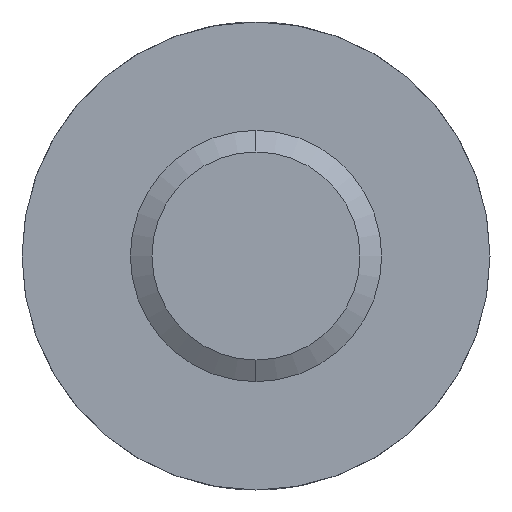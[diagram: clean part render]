
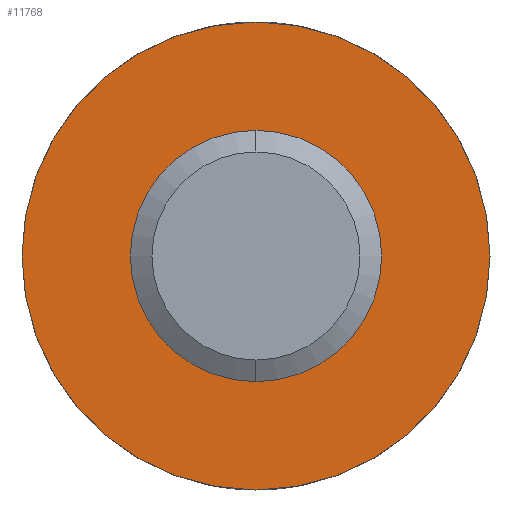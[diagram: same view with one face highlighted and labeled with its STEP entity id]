
A CAD part, left-side view. The second image highlights one B-rep face of the part: STEP entity #11768.
In plain terms, the highlighted planar face has unit normal (-1, 0, 0).
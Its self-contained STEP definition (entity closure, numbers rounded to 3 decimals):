
#27 = ORIENTED_EDGE ( 'NONE', *, *, #5656, .T. ) ;
#377 = EDGE_CURVE ( 'NONE', #10438, #880, #5296, .T. ) ;
#666 = CIRCLE ( 'NONE', #10435, 2.7 ) ;
#797 = CIRCLE ( 'NONE', #9126, 1.2 ) ;
#880 = VERTEX_POINT ( 'NONE', #11335 ) ;
#1375 = DIRECTION ( 'NONE',  ( 1., 0., 0. ) ) ;
#1838 = DIRECTION ( 'NONE',  ( -1., 0., 0. ) ) ;
#2215 = VERTEX_POINT ( 'NONE', #6433 ) ;
#2779 = CARTESIAN_POINT ( 'NONE',  ( 34.9, 0., -2.7 ) ) ;
#2895 = DIRECTION ( 'NONE',  ( 0., 0., 1. ) ) ;
#2939 = DIRECTION ( 'NONE',  ( -1., 0., 0. ) ) ;
#2984 = CARTESIAN_POINT ( 'NONE',  ( 34.9, 0., 0. ) ) ;
#3183 = PLANE ( 'NONE',  #6490 ) ;
#3697 = VERTEX_POINT ( 'NONE', #2779 ) ;
#4203 = ORIENTED_EDGE ( 'NONE', *, *, #7777, .T. ) ;
#4219 = CARTESIAN_POINT ( 'NONE',  ( 34.9, 0., 1.2 ) ) ;
#4252 = CARTESIAN_POINT ( 'NONE',  ( 34.9, 0., 0. ) ) ;
#4614 = EDGE_LOOP ( 'NONE', ( #4203, #27 ) ) ;
#5296 = CIRCLE ( 'NONE', #5841, 1.2 ) ;
#5320 = DIRECTION ( 'NONE',  ( -1., 0., 0. ) ) ;
#5656 = EDGE_CURVE ( 'NONE', #3697, #2215, #666, .T. ) ;
#5841 = AXIS2_PLACEMENT_3D ( 'NONE', #2984, #2939, #2895 ) ;
#6348 = EDGE_CURVE ( 'NONE', #880, #10438, #797, .T. ) ;
#6433 = CARTESIAN_POINT ( 'NONE',  ( 34.9, 0., 2.7 ) ) ;
#6490 = AXIS2_PLACEMENT_3D ( 'NONE', #11502, #1375, #7837 ) ;
#6556 = DIRECTION ( 'NONE',  ( 0., 0., 1. ) ) ;
#7390 = CARTESIAN_POINT ( 'NONE',  ( 34.9, 0., 0. ) ) ;
#7726 = EDGE_LOOP ( 'NONE', ( #10208, #11205 ) ) ;
#7761 = AXIS2_PLACEMENT_3D ( 'NONE', #4252, #9351, #6556 ) ;
#7777 = EDGE_CURVE ( 'NONE', #2215, #3697, #8835, .T. ) ;
#7837 = DIRECTION ( 'NONE',  ( 0., 0., -1. ) ) ;
#8288 = DIRECTION ( 'NONE',  ( 0., 0., 1. ) ) ;
#8427 = FACE_OUTER_BOUND ( 'NONE', #4614, .T. ) ;
#8835 = CIRCLE ( 'NONE', #7761, 2.7 ) ;
#9126 = AXIS2_PLACEMENT_3D ( 'NONE', #7390, #1838, #8288 ) ;
#9351 = DIRECTION ( 'NONE',  ( -1., 0., 0. ) ) ;
#10208 = ORIENTED_EDGE ( 'NONE', *, *, #377, .F. ) ;
#10435 = AXIS2_PLACEMENT_3D ( 'NONE', #10847, #5320, #11784 ) ;
#10438 = VERTEX_POINT ( 'NONE', #4219 ) ;
#10847 = CARTESIAN_POINT ( 'NONE',  ( 34.9, 0., 0. ) ) ;
#11153 = FACE_BOUND ( 'NONE', #7726, .T. ) ;
#11205 = ORIENTED_EDGE ( 'NONE', *, *, #6348, .F. ) ;
#11335 = CARTESIAN_POINT ( 'NONE',  ( 34.9, 0., -1.2 ) ) ;
#11502 = CARTESIAN_POINT ( 'NONE',  ( 34.9, 2.7, 0. ) ) ;
#11768 = ADVANCED_FACE ( 'NONE', ( #11153, #8427 ), #3183, .F. ) ;
#11784 = DIRECTION ( 'NONE',  ( 0., 0., 1. ) ) ;
